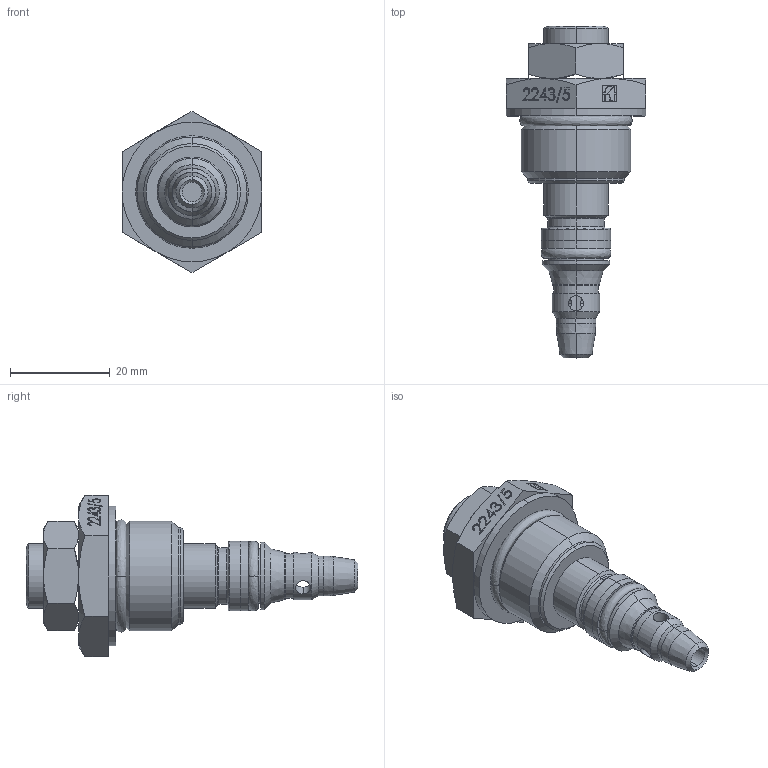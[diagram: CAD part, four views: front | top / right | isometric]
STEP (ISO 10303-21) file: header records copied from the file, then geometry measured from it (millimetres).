
FILE_DESCRIPTION (( 'STEP AP214' ), '1' );
FILE_NAME ('2243-5-12.STEP', '2014-03-13T21:29:19', ( '' ), ( '' ), 'SwSTEP 2.0', 'SolidWorks 2012', '' );
FILE_SCHEMA (( 'AUTOMOTIVE_DESIGN' ));
Length unit declared in the file: millimetre
Products named in the file (1): 2243-5-12
Bounding box: 28 x 66.49 x 32.33 mm (x, y, z)
Surface area: 6083.2 mm2 (no closed solid volume)
Topology: 0 solids, 9 shells, 228 faces, 628 edges, 404 vertices
Faces by surface type: plane 98, cylinder 43, bspline 43, cone 38, torus 6
Entity records: 12991 total; most frequent: CARTESIAN_POINT 5012, ORIENTED_EDGE 1126, DIRECTION 1010, EDGE_CURVE 628, VERTEX_POINT 404, LINE 362, VECTOR 362, AXIS2_PLACEMENT_3D 324
